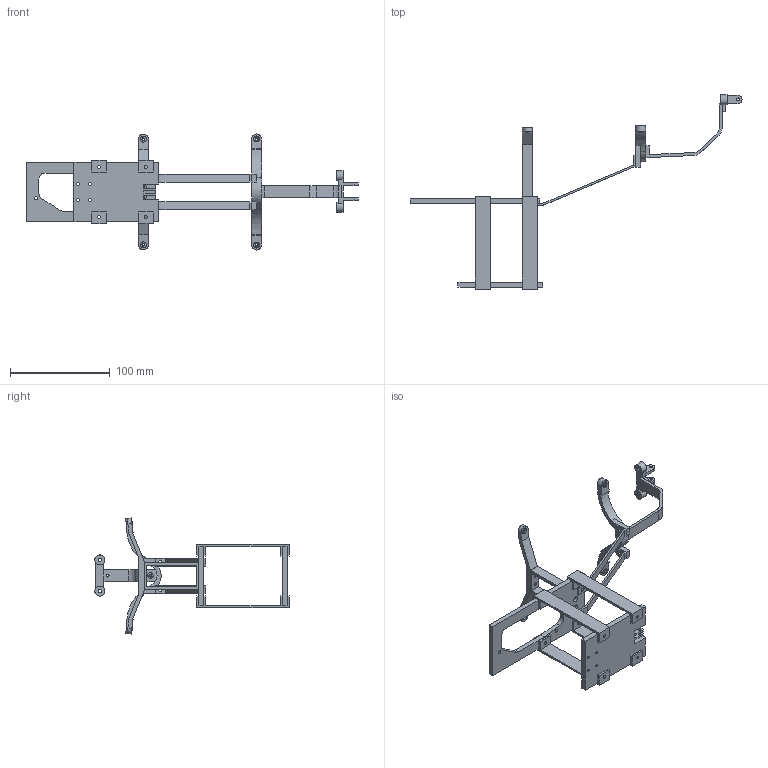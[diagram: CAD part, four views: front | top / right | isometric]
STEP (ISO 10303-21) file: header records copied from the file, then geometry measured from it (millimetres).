
FILE_DESCRIPTION(/* description */ (''),/* implementation_level */ '2;1');
FILE_NAME(/* name */ 'base9assemblata.stp',/* time_stamp */ '2023-11-30T12:00:06+01:00',/* author */ ('filma'),/* organization */ (''),/* preprocessor_version */ 'ST-DEVELOPER v19.2',/* originating_system */ 'Autodesk Inventor 2024',/* authorisation */ '');
FILE_SCHEMA (('AUTOMOTIVE_DESIGN { 1 0 10303 214 3 1 1 }'));
Length unit declared in the file: millimetre
Products named in the file (10): assieme_base9; drone_base_rare; rare_bracket; drone_base_front; front_bracket; tank_base; column; base_connector; drone_base_rare_1; pump_base
Assembly tree (13 placements, depth 2):
  assieme_base9
    drone_base_rare
    rare_bracket  x2
    drone_base_front
    front_bracket
    tank_base
    column  x4
    base_connector
    drone_base_rare_1
    pump_base
Bounding box: 332.14 x 194.27 x 116.12 mm (x, y, z)
Volume: 90011 mm3; surface area: 67297.6 mm2
Topology: 13 solids, 13 shells, 321 faces, 839 edges, 559 vertices
Faces by surface type: plane 218, cylinder 102, bspline 1
Full cylindrical faces by diameter (mm): 2.8 x4, 3 x57, 5.5 x9, 6 x6, 10 x2
Entity records: 8015 total; most frequent: DIRECTION 1338, CARTESIAN_POINT 1323, ORIENTED_EDGE 1252, EDGE_CURVE 626, AXIS2_PLACEMENT_3D 452, LINE 434, VECTOR 434, VERTEX_POINT 417
